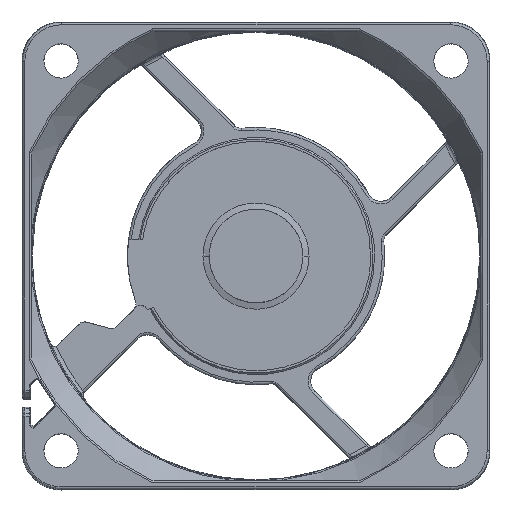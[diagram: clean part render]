
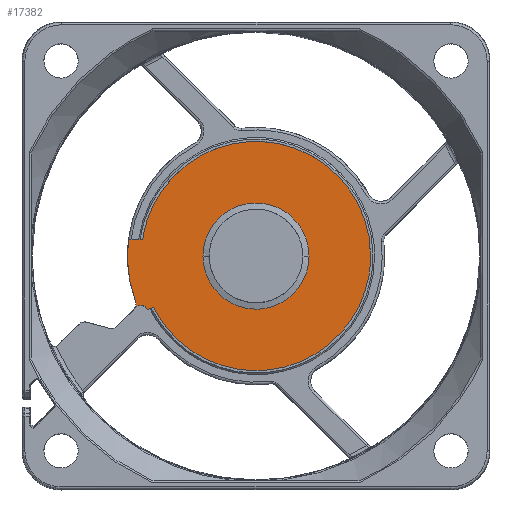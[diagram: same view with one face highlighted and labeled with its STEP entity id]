
A CAD part, top view. The second image highlights one B-rep face of the part: STEP entity #17382.
In plain terms, the highlighted free-form (B-spline) face has degree [1, 1] with [2, 2] control points.
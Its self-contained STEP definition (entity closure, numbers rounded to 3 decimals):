
#648=CARTESIAN_POINT('',(84.533,-6.6,1.3));
#649=VERTEX_POINT('',#648);
#655=CARTESIAN_POINT('',(84.394,-6.738,1.3));
#656=VERTEX_POINT('',#655);
#657=CARTESIAN_POINT('',(84.533,-6.6,1.3));
#658=CARTESIAN_POINT('',(84.487,-6.646,1.3));
#659=CARTESIAN_POINT('',(84.44,-6.692,1.3));
#660=CARTESIAN_POINT('',(84.394,-6.738,1.3));
#661=B_SPLINE_CURVE_WITH_KNOTS('',3,(#657,#658,#659,#660),.UNSPECIFIED.,.F.,.U.,(4,4),(0.,1.),.UNSPECIFIED.);
#662=EDGE_CURVE('',#649,#656,#661,.T.);
#716=CARTESIAN_POINT('',(84.545,-5.77,1.3));
#717=VERTEX_POINT('',#716);
#718=CARTESIAN_POINT('',(84.394,-6.738,1.3));
#719=CARTESIAN_POINT('',(84.448,-6.67,1.3));
#720=CARTESIAN_POINT('',(84.535,-6.524,1.3));
#721=CARTESIAN_POINT('',(84.608,-6.276,1.3));
#722=CARTESIAN_POINT('',(84.614,-6.017,1.3));
#723=CARTESIAN_POINT('',(84.576,-5.852,1.3));
#724=CARTESIAN_POINT('',(84.545,-5.77,1.3));
#725=B_SPLINE_CURVE_WITH_KNOTS('',3,(#718,#719,#720,#721,#722,#723,#724),.UNSPECIFIED.,.F.,.U.,(4,1,1,1,4),(0.,0.25,0.5,0.75,1.),.UNSPECIFIED.);
#726=EDGE_CURVE('',#656,#717,#725,.T.);
#774=CARTESIAN_POINT('',(83.638,2.103,1.3));
#775=VERTEX_POINT('',#774);
#776=CARTESIAN_POINT('',(84.545,-5.77,1.3));
#777=CARTESIAN_POINT('',(83.118,-1.946,1.3));
#778=CARTESIAN_POINT('',(83.638,2.103,1.3));
#779=(BOUNDED_CURVE()B_SPLINE_CURVE(2,(#776,#777,#778),.CIRCULAR_ARC.,.F.,.U.)B_SPLINE_CURVE_WITH_KNOTS((3,3),(0.,1.),.UNSPECIFIED.)CURVE()GEOMETRIC_REPRESENTATION_ITEM()RATIONAL_B_SPLINE_CURVE((1.,0.971,1.))REPRESENTATION_ITEM(''));
#780=EDGE_CURVE('',#717,#775,#779,.T.);
#17105=CARTESIAN_POINT('',(85.451,2.103,1.3));
#17106=VERTEX_POINT('',#17105);
#17107=CARTESIAN_POINT('',(83.638,2.103,1.3));
#17108=CARTESIAN_POINT('',(85.451,2.103,1.3));
#17109=B_SPLINE_CURVE_WITH_KNOTS('',1,(#17107,#17108),.POLYLINE_FORM.,.F.,.U.,(2,2),(0.,1.),.UNSPECIFIED.);
#17110=EDGE_CURVE('',#775,#17106,#17109,.T.);
#17227=CARTESIAN_POINT('',(86.842,-6.555,1.3));
#17228=VERTEX_POINT('',#17227);
#17234=CARTESIAN_POINT('',(86.153,-6.898,1.3));
#17235=VERTEX_POINT('',#17234);
#17236=CARTESIAN_POINT('',(86.842,-6.555,1.3));
#17237=CARTESIAN_POINT('',(86.153,-6.898,1.3));
#17238=B_SPLINE_CURVE_WITH_KNOTS('',1,(#17236,#17237),.POLYLINE_FORM.,.F.,.U.,(2,2),(0.,1.),.UNSPECIFIED.);
#17239=EDGE_CURVE('',#17228,#17235,#17238,.T.);
#17271=CARTESIAN_POINT('',(86.135,-6.862,1.3));
#17272=VERTEX_POINT('',#17271);
#17273=CARTESIAN_POINT('',(86.153,-6.898,1.3));
#17274=CARTESIAN_POINT('',(86.144,-6.88,1.3));
#17275=CARTESIAN_POINT('',(86.135,-6.862,1.3));
#17276=(BOUNDED_CURVE()B_SPLINE_CURVE(2,(#17273,#17274,#17275),.CIRCULAR_ARC.,.F.,.U.)B_SPLINE_CURVE_WITH_KNOTS((3,3),(0.,1.),.UNSPECIFIED.)CURVE()GEOMETRIC_REPRESENTATION_ITEM()RATIONAL_B_SPLINE_CURVE((1.,1.,1.))REPRESENTATION_ITEM(''));
#17277=EDGE_CURVE('',#17235,#17272,#17276,.T.);
#17313=CARTESIAN_POINT('',(86.135,-6.862,1.3));
#17314=CARTESIAN_POINT('',(86.087,-6.765,1.3));
#17315=CARTESIAN_POINT('',(85.965,-6.595,1.3));
#17316=CARTESIAN_POINT('',(85.707,-6.404,1.3));
#17317=CARTESIAN_POINT('',(85.404,-6.304,1.3));
#17318=CARTESIAN_POINT('',(85.086,-6.302,1.3));
#17319=CARTESIAN_POINT('',(84.78,-6.401,1.3));
#17320=CARTESIAN_POINT('',(84.61,-6.523,1.3));
#17321=CARTESIAN_POINT('',(84.533,-6.6,1.3));
#17322=B_SPLINE_CURVE_WITH_KNOTS('',3,(#17313,#17314,#17315,#17316,#17317,#17318,#17319,#17320,#17321),.UNSPECIFIED.,.F.,.U.,(4,1,1,1,1,1,4),(0.,0.167,0.333,0.5,0.667,0.833,1.),.UNSPECIFIED.);
#17323=EDGE_CURVE('',#17272,#649,#17322,.T.);
#17328=CARTESIAN_POINT('',(146.681,-46.681,1.3));
#17329=CARTESIAN_POINT('',(53.319,-46.681,1.3));
#17330=CARTESIAN_POINT('',(146.681,46.681,1.3));
#17331=CARTESIAN_POINT('',(53.319,46.681,1.3));
#17332=B_SPLINE_SURFACE_WITH_KNOTS('',1,1,((#17328,#17329),(#17330,#17331)),.PLANE_SURF.,.F.,.F.,.U.,(2,2),(2,2),(0.,1.),(0.,1.),.UNSPECIFIED.);
#17333=ORIENTED_EDGE('',*,*,#17110,.F.);
#17334=ORIENTED_EDGE('',*,*,#780,.F.);
#17335=ORIENTED_EDGE('',*,*,#726,.F.);
#17336=ORIENTED_EDGE('',*,*,#662,.F.);
#17337=ORIENTED_EDGE('',*,*,#17323,.F.);
#17338=ORIENTED_EDGE('',*,*,#17277,.F.);
#17339=ORIENTED_EDGE('',*,*,#17239,.F.);
#17340=CARTESIAN_POINT('',(114.7,0.,1.3));
#17341=VERTEX_POINT('',#17340);
#17342=CARTESIAN_POINT('',(86.842,-6.555,1.3));
#17343=CARTESIAN_POINT('',(92.034,-16.976,1.3));
#17344=CARTESIAN_POINT('',(103.367,-14.309,1.3));
#17345=CARTESIAN_POINT('',(114.7,-11.643,1.3));
#17346=CARTESIAN_POINT('',(114.7,0.,1.3));
#17347=(BOUNDED_CURVE()B_SPLINE_CURVE(2,(#17342,#17343,#17344,#17345,#17346),.CIRCULAR_ARC.,.F.,.U.)B_SPLINE_CURVE_WITH_KNOTS((3,2,3),(0.,0.5,1.),.UNSPECIFIED.)CURVE()GEOMETRIC_REPRESENTATION_ITEM()RATIONAL_B_SPLINE_CURVE((1.,0.784,1.,0.784,1.))REPRESENTATION_ITEM(''));
#17348=EDGE_CURVE('',#17228,#17341,#17347,.T.);
#17349=ORIENTED_EDGE('',*,*,#17348,.T.);
#17350=CARTESIAN_POINT('',(114.7,0.,1.3));
#17351=CARTESIAN_POINT('',(114.7,13.681,1.3));
#17352=CARTESIAN_POINT('',(101.054,14.662,1.3));
#17353=CARTESIAN_POINT('',(87.408,15.643,1.3));
#17354=CARTESIAN_POINT('',(85.451,2.103,1.3));
#17355=(BOUNDED_CURVE()B_SPLINE_CURVE(2,(#17350,#17351,#17352,#17353,#17354),.CIRCULAR_ARC.,.F.,.U.)B_SPLINE_CURVE_WITH_KNOTS((3,2,3),(0.,0.5,1.),.UNSPECIFIED.)CURVE()GEOMETRIC_REPRESENTATION_ITEM()RATIONAL_B_SPLINE_CURVE((1.,0.732,1.,0.732,1.))REPRESENTATION_ITEM(''));
#17356=EDGE_CURVE('',#17341,#17106,#17355,.T.);
#17357=ORIENTED_EDGE('',*,*,#17356,.T.);
#17358=EDGE_LOOP('',(#17333,#17334,#17335,#17336,#17337,#17338,#17339,#17349,#17357));
#17359=FACE_OUTER_BOUND('',#17358,.T.);
#17360=CARTESIAN_POINT('',(93.2,0.,1.3));
#17361=VERTEX_POINT('',#17360);
#17362=CARTESIAN_POINT('',(106.8,0.,1.3));
#17363=VERTEX_POINT('',#17362);
#17364=CARTESIAN_POINT('',(93.2,0.,1.3));
#17365=CARTESIAN_POINT('',(93.2,6.8,1.3));
#17366=CARTESIAN_POINT('',(100.,6.8,1.3));
#17367=CARTESIAN_POINT('',(106.8,6.8,1.3));
#17368=CARTESIAN_POINT('',(106.8,0.,1.3));
#17369=(BOUNDED_CURVE()B_SPLINE_CURVE(2,(#17364,#17365,#17366,#17367,#17368),.CIRCULAR_ARC.,.F.,.U.)B_SPLINE_CURVE_WITH_KNOTS((3,2,3),(0.,0.5,1.),.UNSPECIFIED.)CURVE()GEOMETRIC_REPRESENTATION_ITEM()RATIONAL_B_SPLINE_CURVE((1.,0.707,1.,0.707,1.))REPRESENTATION_ITEM(''));
#17370=EDGE_CURVE('',#17361,#17363,#17369,.T.);
#17371=ORIENTED_EDGE('',*,*,#17370,.T.);
#17372=CARTESIAN_POINT('',(106.8,0.,1.3));
#17373=CARTESIAN_POINT('',(106.8,-6.8,1.3));
#17374=CARTESIAN_POINT('',(100.,-6.8,1.3));
#17375=CARTESIAN_POINT('',(93.2,-6.8,1.3));
#17376=CARTESIAN_POINT('',(93.2,0.,1.3));
#17377=(BOUNDED_CURVE()B_SPLINE_CURVE(2,(#17372,#17373,#17374,#17375,#17376),.CIRCULAR_ARC.,.F.,.U.)B_SPLINE_CURVE_WITH_KNOTS((3,2,3),(0.,0.5,1.),.UNSPECIFIED.)CURVE()GEOMETRIC_REPRESENTATION_ITEM()RATIONAL_B_SPLINE_CURVE((1.,0.707,1.,0.707,1.))REPRESENTATION_ITEM(''));
#17378=EDGE_CURVE('',#17363,#17361,#17377,.T.);
#17379=ORIENTED_EDGE('',*,*,#17378,.T.);
#17380=EDGE_LOOP('',(#17371,#17379));
#17381=FACE_BOUND('',#17380,.T.);
#17382=ADVANCED_FACE('',(#17359,#17381),#17332,.T.);
